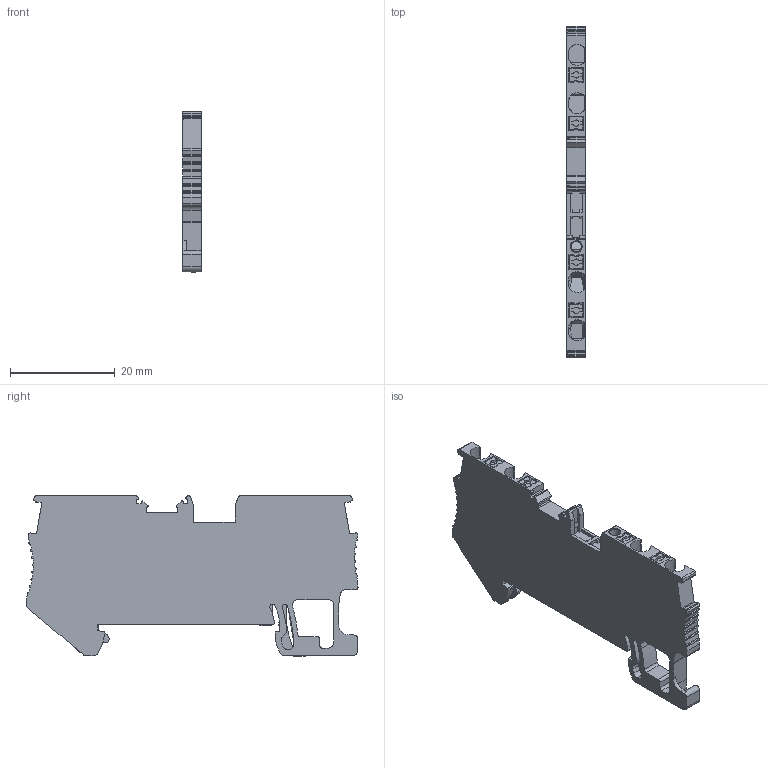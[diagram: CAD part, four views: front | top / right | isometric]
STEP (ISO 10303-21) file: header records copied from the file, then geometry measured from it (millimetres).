
FILE_DESCRIPTION (( 'STEP AP214' ), '1' );
FILE_NAME ('VPR-1.5-QUATTRO-PE.STEP', '2026-03-30T14:18:16', ( '' ), ( '' ), 'SwSTEP 2.0', 'SolidWorks 2022', '' );
FILE_SCHEMA (( 'AUTOMOTIVE_DESIGN' ));
Length unit declared in the file: millimetre
Products named in the file (1): VPR-1.5-QUATTRO-PE
Bounding box: 3.5 x 63.3 x 30.52 mm (x, y, z)
Volume: 4793.6 mm3; surface area: 4524.6 mm2
Topology: 1 solids, 1 shells, 648 faces, 1861 edges, 1216 vertices
Faces by surface type: plane 442, cylinder 192, cone 10, bspline 4
Entity records: 23377 total; most frequent: CARTESIAN_POINT 4421, ORIENTED_EDGE 3722, DIRECTION 3423, EDGE_CURVE 1861, VECTOR 1351, LINE 1351, VERTEX_POINT 1217, AXIS2_PLACEMENT_3D 1036
